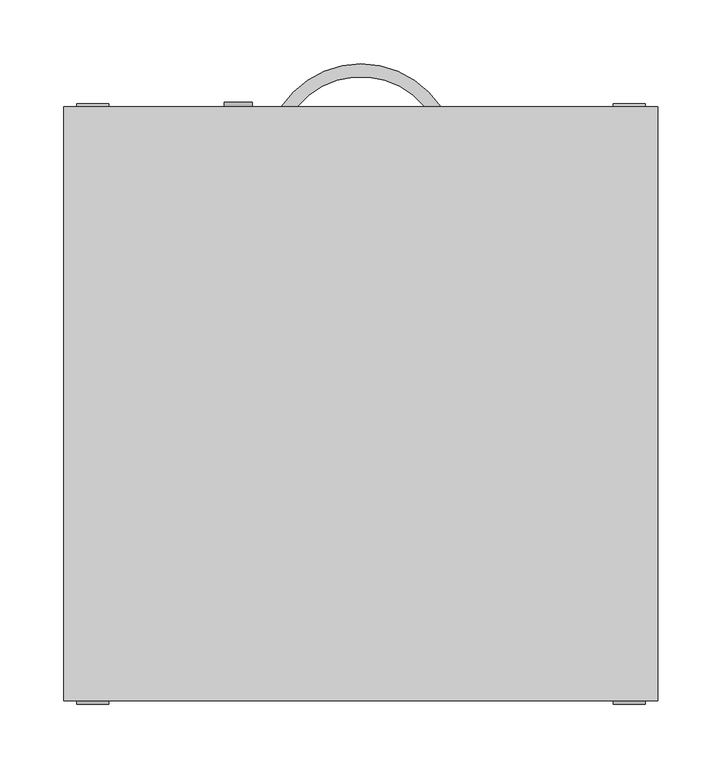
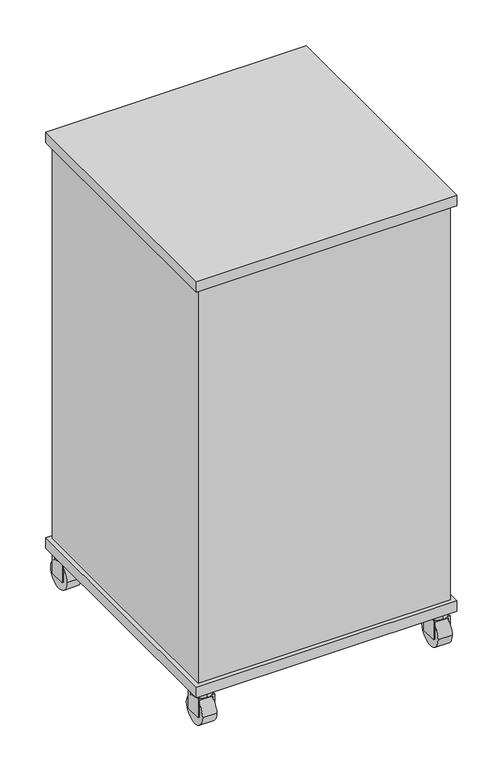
"""IFC4 building model written with IfcOpenShell, lengths in millimetres: proxy geometry, BIMHealth-Locker_Bedside-LOD2A-v1 : BIMHealth-Locker_Bedside-LOD2A-v1."""

from ifc_helpers import new_model, si_unit, point, frame, frame_2d, origin, place, context, project, spatial, polyline, circle_curve, trimmed, segment, composite_curve, outline, extrude, source, transform, mapped, element, save


def generic_models_e9c63149(model_context):
    return source(origin(), model_context, "Body", "SweptSolid", [
        extrude(outline(composite_curve([segment(trimmed(circle_curve(frame_2d((788.75, 179.0)), 11.0), [point((788.75, 168.0))], [point((788.75, 190.0))], False, "CARTESIAN"), True, "CONTINUOUS"), segment(trimmed(circle_curve(frame_2d((788.75, 179.0)), 11.0), [point((788.75, 190.0))], [point((788.75, 168.0))], False, "CARTESIAN"), True, "CONTINUOUS")], self_intersect=False), holes=[polyline([(795.0, 178.0), (795.0, 180.0), (782.5, 180.0), (782.5, 178.0), (795.0, 178.0)])]), frame((0.0, 457.5, 0.0), z_axis=(0.0, 1.0, 0.0), x_axis=(0.0, 0.0, 1.0)), (0.0, 0.0, 1.0), 3.5477533),
        extrude(outline(composite_curve([segment(trimmed(circle_curve(frame_2d((275.0, 415.9668807)), 65.0), [point((325.0, 457.5))], [point((225.0, 457.5))], True, "CARTESIAN"), True, "CONTINUOUS"), segment(polyline([(225.0, 457.5), (212.55002, 457.5)]), True, "CONTINUOUS"), segment(trimmed(circle_curve(frame_2d((275.0, 415.9668807)), 75.0), [point((212.55002, 457.5))], [point((337.44998, 457.5))], False, "CARTESIAN"), True, "CONTINUOUS"), segment(polyline([(337.44998, 457.5), (325.0, 457.5)]), True, "CONTINUOUS")], self_intersect=False)), frame((0.0, 0.0, 750.0), z_axis=(0.0, 0.0, 1.0), x_axis=(1.0, 0.0, 0.0)), (0.0, 0.0, 1.0), 10.0),
        extrude(outline(composite_curve([segment(trimmed(circle_curve(frame_2d((275.0, 415.9668807)), 65.0), [point((325.0, 457.5))], [point((225.0, 457.5))], True, "CARTESIAN"), True, "CONTINUOUS"), segment(polyline([(225.0, 457.5), (212.55002, 457.5)]), True, "CONTINUOUS"), segment(trimmed(circle_curve(frame_2d((275.0, 415.9668807)), 75.0), [point((212.55002, 457.5))], [point((337.44998, 457.5))], False, "CARTESIAN"), True, "CONTINUOUS"), segment(polyline([(337.44998, 457.5), (325.0, 457.5)]), True, "CONTINUOUS")], self_intersect=False)), frame((0.0, 0.0, 527.0), z_axis=(0.0, 0.0, 1.0), x_axis=(1.0, 0.0, 0.0)), (0.0, 0.0, 1.0), 10.0),
        extrude(outline(polyline([(476.0, 450.0), (476.0, 432.0), (74.0, 432.0), (74.0, 450.0), (476.0, 450.0)])), frame((0.0, 0.0, 611.0), z_axis=(0.0, 0.0, 1.0), x_axis=(1.0, 0.0, 0.0)), (0.0, 0.0, 1.0), 215.0),
        extrude(outline(polyline([(476.0, 450.0), (476.0, 432.0), (74.0, 432.0), (74.0, 450.0), (476.0, 450.0)])), frame((0.0, 0.0, 89.0), z_axis=(0.0, 0.0, 1.0), x_axis=(1.0, 0.0, 0.0)), (0.0, 0.0, 1.0), 518.0),
        extrude(outline(polyline([(507.5, -7.5), (42.5, -7.5), (42.5, 457.5), (507.5, 457.5), (507.5, -7.5)])), frame((0.0, 0.0, 830.0), z_axis=(0.0, 0.0, 1.0), x_axis=(1.0, 0.0, 0.0)), (0.0, 0.0, 1.0), 20.0),
        extrude(outline(polyline([(50.0, 0.0), (50.0, 450.0), (70.0, 450.0), (70.0, 20.0), (480.0, 20.0), (480.0, 450.0), (500.0, 450.0), (500.0, 0.0), (50.0, 0.0)])), frame((0.0, 0.0, 85.0), z_axis=(0.0, 0.0, 1.0), x_axis=(1.0, 0.0, 0.0)), (0.0, 0.0, 1.0), 745.0),
        extrude(outline(polyline([(507.5, -7.5), (42.5, -7.5), (42.5, 457.5), (507.5, 457.5), (507.5, -7.5)])), frame((0.0, 0.0, 65.0), z_axis=(0.0, 0.0, 1.0), x_axis=(1.0, 0.0, 0.0)), (0.0, 0.0, 1.0), 20.0),
        extrude(outline(composite_curve([segment(trimmed(circle_curve(frame_2d((65.0, 15.0)), 17.5), [point((65.0, -2.5))], [point((65.0, 32.5))], False, "CARTESIAN"), True, "CONTINUOUS"), segment(trimmed(circle_curve(frame_2d((65.0, 15.0)), 17.5), [point((65.0, 32.5))], [point((65.0, -2.5))], False, "CARTESIAN"), True, "CONTINUOUS")], self_intersect=False)), frame((0.0, 0.0, 55.0), z_axis=(0.0, 0.0, 1.0), x_axis=(1.0, 0.0, 0.0)), (0.0, 0.0, 1.0), 10.0),
        extrude(outline(composite_curve([segment(trimmed(circle_curve(frame_2d((15.0, 25.0)), 25.0), [point((-10.0, 25.0))], [point((40.0, 25.0))], False, "CARTESIAN"), True, "CONTINUOUS"), segment(trimmed(circle_curve(frame_2d((15.0, 25.0)), 25.0), [point((40.0, 25.0))], [point((-10.0, 25.0))], False, "CARTESIAN"), True, "CONTINUOUS")], self_intersect=False)), frame((52.5, 0.0, 0.0), z_axis=(1.0, 0.0, 0.0), x_axis=(0.0, 1.0, 0.0)), (0.0, 0.0, 1.0), 25.0),
        extrude(outline(polyline([(20.0, 50.0), (20.0, 52.5), (52.5, 52.5), (52.5, 77.5), (20.0, 77.5), (20.0, 80.0), (55.0, 80.0), (55.0, 50.0), (20.0, 50.0)])), frame((0.0, 0.0, 0.0), z_axis=(0.0, 1.0, 0.0), x_axis=(0.0, 0.0, 1.0)), (0.0, 0.0, 1.0), 30.0),
        extrude(outline(composite_curve([segment(trimmed(circle_curve(frame_2d((485.0, 15.0)), 17.5), [point((485.0, -2.5))], [point((485.0, 32.5))], False, "CARTESIAN"), True, "CONTINUOUS"), segment(trimmed(circle_curve(frame_2d((485.0, 15.0)), 17.5), [point((485.0, 32.5))], [point((485.0, -2.5))], False, "CARTESIAN"), True, "CONTINUOUS")], self_intersect=False)), frame((0.0, 0.0, 55.0), z_axis=(0.0, 0.0, 1.0), x_axis=(1.0, 0.0, 0.0)), (0.0, 0.0, 1.0), 10.0),
        extrude(outline(composite_curve([segment(trimmed(circle_curve(frame_2d((15.0, 25.0)), 25.0), [point((-10.0, 25.0))], [point((40.0, 25.0))], False, "CARTESIAN"), True, "CONTINUOUS"), segment(trimmed(circle_curve(frame_2d((15.0, 25.0)), 25.0), [point((40.0, 25.0))], [point((-10.0, 25.0))], False, "CARTESIAN"), True, "CONTINUOUS")], self_intersect=False)), frame((472.5, 0.0, 0.0), z_axis=(1.0, 0.0, 0.0), x_axis=(0.0, 1.0, 0.0)), (0.0, 0.0, 1.0), 25.0),
        extrude(outline(polyline([(20.0, 500.0), (55.0, 500.0), (55.0, 470.0), (20.0, 470.0), (20.0, 472.5), (52.5, 472.5), (52.5, 497.5), (20.0, 497.5), (20.0, 500.0)])), frame((0.0, 0.0, 0.0), z_axis=(0.0, 1.0, 0.0), x_axis=(0.0, 0.0, 1.0)), (0.0, 0.0, 1.0), 30.0),
        extrude(outline(composite_curve([segment(trimmed(circle_curve(frame_2d((65.0, 435.0)), 17.5), [point((65.0, 452.5))], [point((65.0, 417.5))], False, "CARTESIAN"), True, "CONTINUOUS"), segment(trimmed(circle_curve(frame_2d((65.0, 435.0)), 17.5), [point((65.0, 417.5))], [point((65.0, 452.5))], False, "CARTESIAN"), True, "CONTINUOUS")], self_intersect=False)), frame((0.0, 0.0, 55.0), z_axis=(0.0, 0.0, 1.0), x_axis=(1.0, 0.0, 0.0)), (0.0, 0.0, 1.0), 10.0),
        extrude(outline(composite_curve([segment(trimmed(circle_curve(frame_2d((435.0, 25.0)), 25.0), [point((460.0, 25.0))], [point((410.0, 25.0))], False, "CARTESIAN"), True, "CONTINUOUS"), segment(trimmed(circle_curve(frame_2d((435.0, 25.0)), 25.0), [point((410.0, 25.0))], [point((460.0, 25.0))], False, "CARTESIAN"), True, "CONTINUOUS")], self_intersect=False)), frame((52.5, 0.0, 0.0), z_axis=(1.0, 0.0, 0.0), x_axis=(0.0, 1.0, 0.0)), (0.0, 0.0, 1.0), 25.0),
        extrude(outline(polyline([(20.0, 50.0), (20.0, 52.5), (52.5, 52.5), (52.5, 77.5), (20.0, 77.5), (20.0, 80.0), (55.0, 80.0), (55.0, 50.0), (20.0, 50.0)])), frame((0.0, 420.0, 0.0), z_axis=(0.0, 1.0, 0.0), x_axis=(0.0, 0.0, 1.0)), (0.0, 0.0, 1.0), 30.0),
        extrude(outline(composite_curve([segment(trimmed(circle_curve(frame_2d((485.0, 435.0)), 17.5), [point((485.0, 452.5))], [point((485.0, 417.5))], False, "CARTESIAN"), True, "CONTINUOUS"), segment(trimmed(circle_curve(frame_2d((485.0, 435.0)), 17.5), [point((485.0, 417.5))], [point((485.0, 452.5))], False, "CARTESIAN"), True, "CONTINUOUS")], self_intersect=False)), frame((0.0, 0.0, 55.0), z_axis=(0.0, 0.0, 1.0), x_axis=(1.0, 0.0, 0.0)), (0.0, 0.0, 1.0), 10.0),
        extrude(outline(composite_curve([segment(trimmed(circle_curve(frame_2d((435.0, 25.0)), 25.0), [point((460.0, 25.0))], [point((410.0, 25.0))], False, "CARTESIAN"), True, "CONTINUOUS"), segment(trimmed(circle_curve(frame_2d((435.0, 25.0)), 25.0), [point((410.0, 25.0))], [point((460.0, 25.0))], False, "CARTESIAN"), True, "CONTINUOUS")], self_intersect=False)), frame((472.5, 0.0, 0.0), z_axis=(1.0, 0.0, 0.0), x_axis=(0.0, 1.0, 0.0)), (0.0, 0.0, 1.0), 25.0),
        extrude(outline(polyline([(20.0, 500.0), (55.0, 500.0), (55.0, 470.0), (20.0, 470.0), (20.0, 472.5), (52.5, 472.5), (52.5, 497.5), (20.0, 497.5), (20.0, 500.0)])), frame((0.0, 420.0, 0.0), z_axis=(0.0, 1.0, 0.0), x_axis=(0.0, 0.0, 1.0)), (0.0, 0.0, 1.0), 30.0),
    ])


if __name__ == "__main__":
    model = new_model("IFC4")
    model_context = context("Model", 3, world=origin())
    ifc_project = project(units=[si_unit("LENGTHUNIT", "METRE", prefix="MILLI")], contexts=[model_context])
    site = spatial("IfcSite", under=ifc_project)
    building = spatial("IfcBuilding", under=site)
    placement = place(None, origin())
    generic_models_shape = generic_models_e9c63149(model_context)
    element("IfcBuildingElementProxy", 1, Name="BIMHealth-Locker_Bedside-LOD2A-v1 : BIMHealth-Locker_Bedside-LOD2A-v1", ObjectType="BIMHealth-Locker_Bedside-LOD2A-v1 : BIMHealth-Locker_Bedside-LOD2A-v1", at=placement, inside=building, context=model_context, shape_type="MappedRepresentation", body=[
        mapped(generic_models_shape, transform((0.0, 0.0, 0.0), x_axis=(1.0, 0.0, 0.0), y_axis=(0.0, 1.0, 0.0), z_axis=(0.0, 0.0, 1.0))),
    ])
    save(model, "model.ifc")
